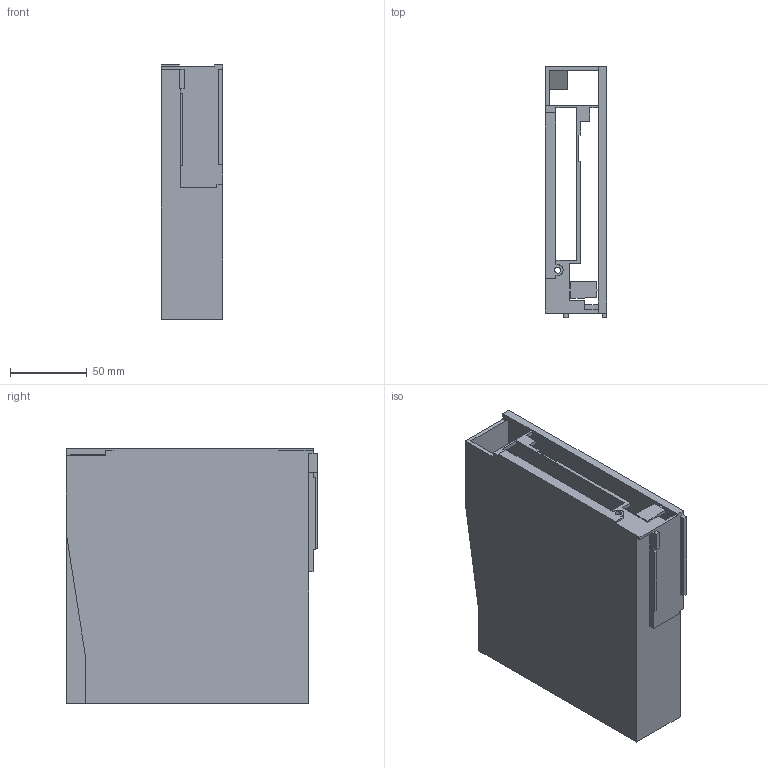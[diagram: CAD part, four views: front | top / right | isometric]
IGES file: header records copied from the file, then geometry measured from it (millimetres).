
Start section:  PTC IGES file: j4-40-60b-case.igs
Global section: file name: j4-40-60b-case.igs; native system: Pro/ENGINEER by Parametric Technology Corporation; preprocessor: 2010160; author: CV86875; organization: Unknown; date: 20121031.193705; units: millimetre
Bounding box: 40 x 164 x 166.2 mm (x, y, z)
Volume: 171957.8 mm3; surface area: 135539.9 mm2
Topology: 1 solids, 1 shells, 80 faces, 248 edges, 165 vertices
Faces by surface type: bspline 80
